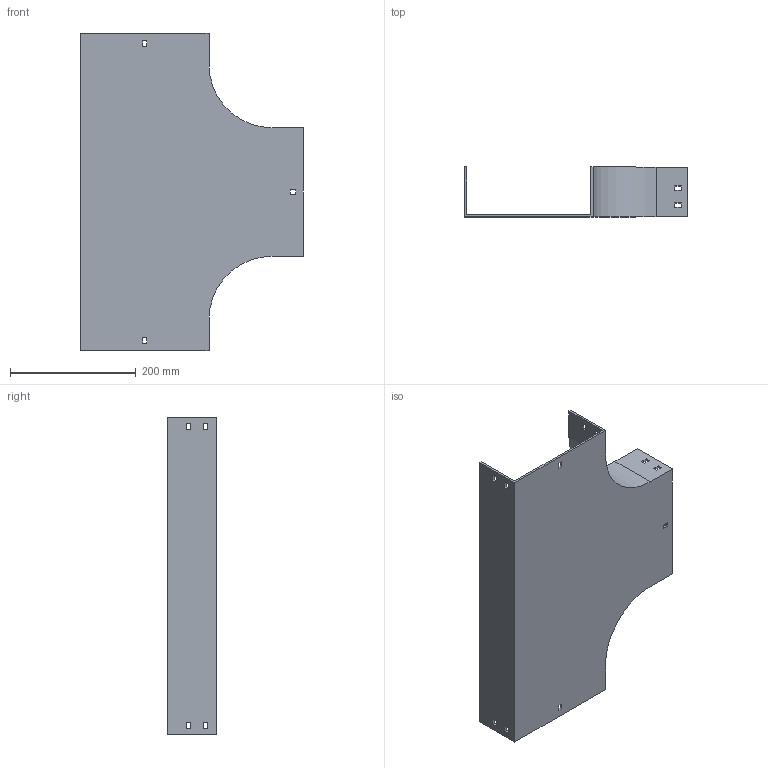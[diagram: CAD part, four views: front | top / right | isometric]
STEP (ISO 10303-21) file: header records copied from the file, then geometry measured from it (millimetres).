
FILE_DESCRIPTION (( 'STEP AP214' ), '1' );
FILE_NAME ('15B1C200.step', '2025-02-21T09:55:16', ( '' ), ( '' ), 'SwSTEP 2.0', 'SolidWorks 2023', '' );
FILE_SCHEMA (( 'AUTOMOTIVE_DESIGN' ));
Length unit declared in the file: millimetre
Products named in the file (1): 15B1C200
Bounding box: 354 x 79 x 504 mm (x, y, z)
Volume: 748925.3 mm3; surface area: 437001.8 mm2
Topology: 1 solids, 1 shells, 82 faces, 240 edges, 160 vertices
Faces by surface type: plane 78, cylinder 4
Entity records: 2755 total; most frequent: CARTESIAN_POINT 483, ORIENTED_EDGE 480, DIRECTION 414, EDGE_CURVE 240, VECTOR 232, LINE 232, VERTEX_POINT 160, EDGE_LOOP 112
